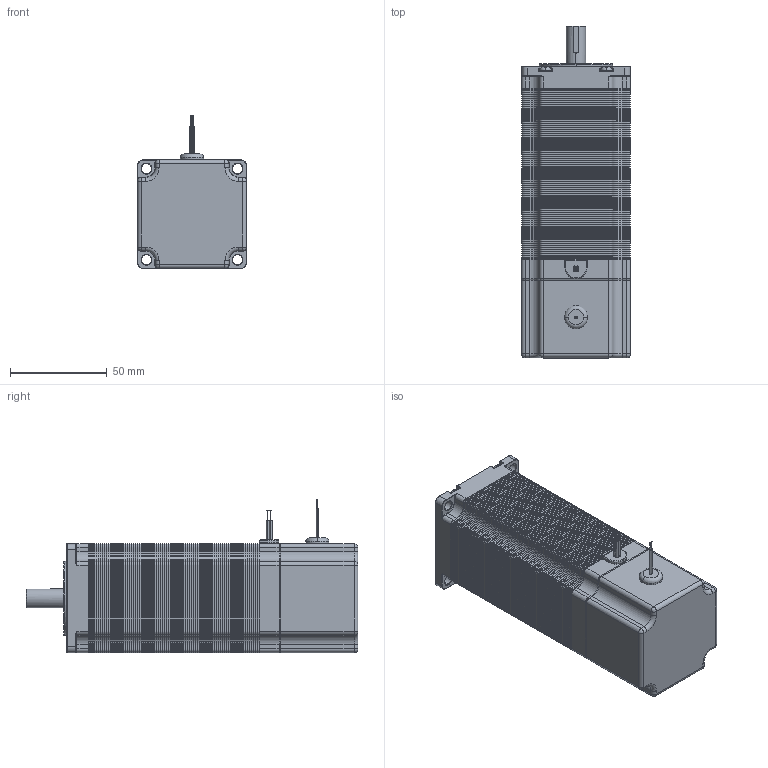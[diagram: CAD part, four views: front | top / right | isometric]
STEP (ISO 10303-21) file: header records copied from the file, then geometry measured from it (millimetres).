
FILE_DESCRIPTION (( 'STEP AP214' ), '1' );
FILE_NAME ('Nema 23 Stepper Motor length 112mm_10mm_key_BRK.STEP', '2020-11-11T13:11:40', ( 'Moofasta' ), ( '' ), 'SwSTEP 2.0', 'SolidWorks 2020', '' );
FILE_SCHEMA (( 'AUTOMOTIVE_DESIGN' ));
Length unit declared in the file: millimetre
Products named in the file (1): Nema 23 Stepper Motor length 112mm_10mm_key_BRK
Bounding box: 56.3 x 171.5 x 79.3 mm (x, y, z)
Volume: 432780.7 mm3; surface area: 545908.4 mm2
Topology: 104 solids, 105 shells, 7060 faces, 16045 edges, 9179 vertices
Faces by surface type: plane 3537, cone 2140, cylinder 1255, torus 100, sphere 20, bspline 8
Entity records: 267470 total; most frequent: DIRECTION 34850, CARTESIAN_POINT 32737, ORIENTED_EDGE 32034, EDGE_CURVE 16017, AXIS2_PLACEMENT_3D 11856, VECTOR 11138, LINE 11138, VERTEX_POINT 9179
